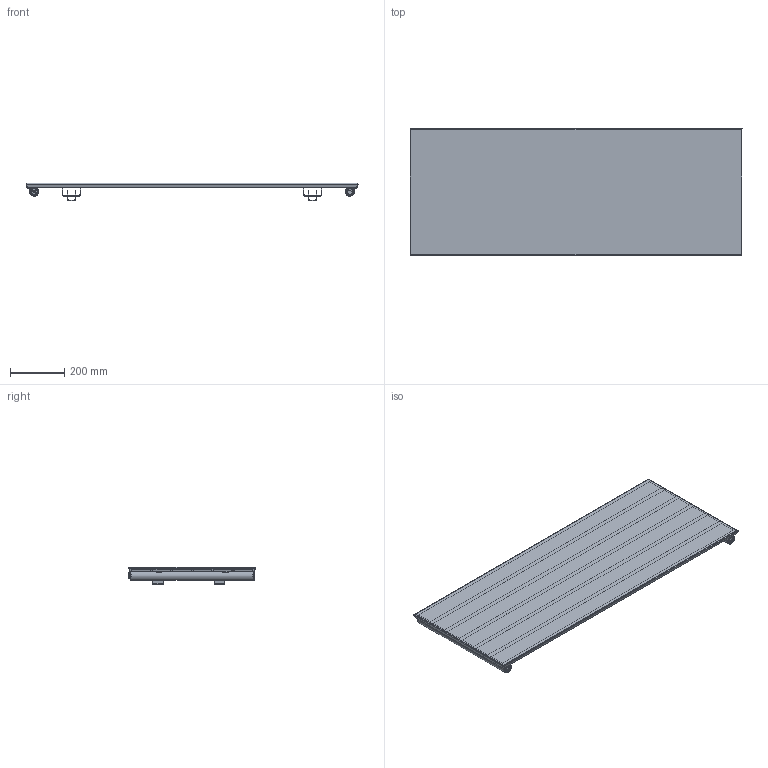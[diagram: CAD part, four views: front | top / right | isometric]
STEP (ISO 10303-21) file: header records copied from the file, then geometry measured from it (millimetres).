
FILE_DESCRIPTION (( 'STEP AP203' ), '1' );
FILE_NAME ('FICE12455SVO.STEP', '2026-03-04T08:28:30', ( '' ), ( '' ), 'SwSTEP 2.0', 'SolidWorks 2025', '' );
FILE_SCHEMA (( 'CONFIG_CONTROL_DESIGN' ));
Length unit declared in the file: millimetre
Products named in the file (9): FICE12455SVO; ZANCA-FISSAGGIO; PIASTRA ICE HORIZONTAL; TRAVERSINO PIATTO 70 [Con configurazioni]_1210; COLLETTORE INT 75 [Con configurazioni]_455; SUPPORTO; tappo_sx.prt; SUPPORTO A SALDARE_A; tappo_sfiato.prt
Assembly tree (17 placements, depth 3):
  FICE12455SVO
    COLLETTORE INT 75 [Con configurazioni]_455  x2
    TRAVERSINO PIATTO 70 [Con configurazioni]_1210  x6
    PIASTRA ICE HORIZONTAL
    tappo_sx.prt
    tappo_sfiato.prt
    SUPPORTO A SALDARE_A  x4
      ZANCA-FISSAGGIO
      SUPPORTO
Bounding box: 1220.22 x 466.11 x 64.5 mm (x, y, z)
Volume: 3056360 mm3; surface area: 3665473 mm2
Topology: 17 solids, 21 shells, 987 faces, 2656 edges, 1685 vertices
Faces by surface type: plane 520, cylinder 296, cone 98, bspline 49, torus 24
Entity records: 23547 total; most frequent: CARTESIAN_POINT 13310, ORIENTED_EDGE 2130, DIRECTION 1491, EDGE_CURVE 1069, VERTEX_POINT 671, AXIS2_PLACEMENT_3D 531, B_SPLINE_CURVE_WITH_KNOTS 467, EDGE_LOOP 431
